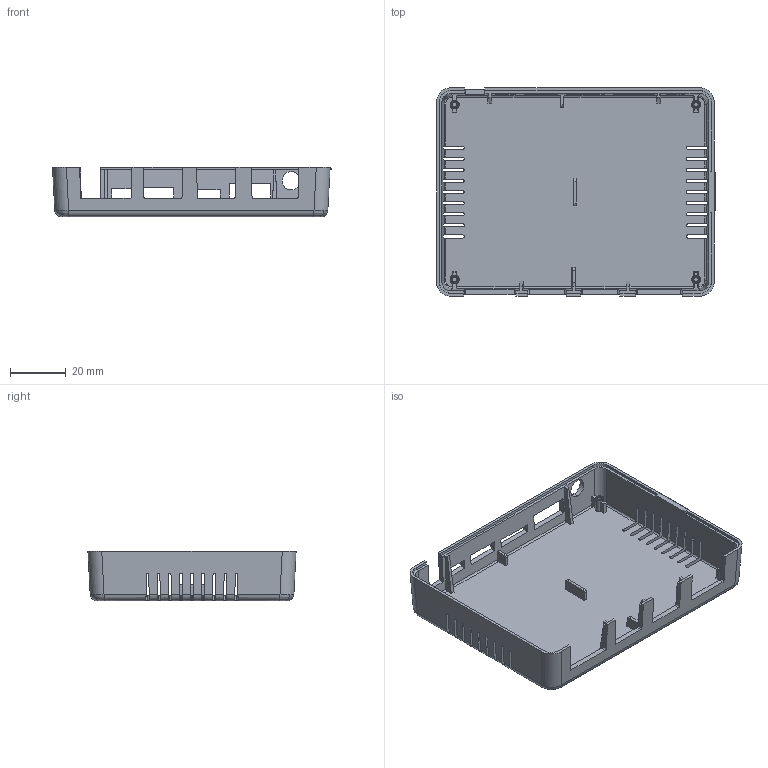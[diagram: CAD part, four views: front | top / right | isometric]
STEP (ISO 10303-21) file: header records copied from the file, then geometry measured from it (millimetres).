
FILE_DESCRIPTION (( 'STEP AP214' ), '1' );
FILE_NAME ('bottom_2.STEP', '2015-04-29T02:25:17', ( '' ), ( '' ), 'SwSTEP 2.0', 'SolidWorks 2013', '' );
FILE_SCHEMA (( 'AUTOMOTIVE_DESIGN' ));
Length unit declared in the file: millimetre
Products named in the file (1): bottom_2
Bounding box: 100.5 x 75 x 17.9 mm (x, y, z)
Volume: 21046.4 mm3; surface area: 25032 mm2
Topology: 1 solids, 1 shells, 411 faces, 1288 edges, 848 vertices
Faces by surface type: plane 206, cylinder 121, cone 60, bspline 24
Entity records: 15002 total; most frequent: CARTESIAN_POINT 4010, ORIENTED_EDGE 2576, DIRECTION 1944, EDGE_CURVE 1288, VECTOR 852, LINE 852, VERTEX_POINT 848, AXIS2_PLACEMENT_3D 546
